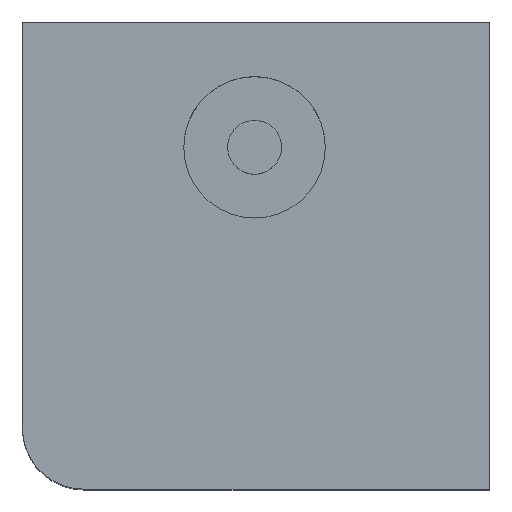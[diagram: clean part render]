
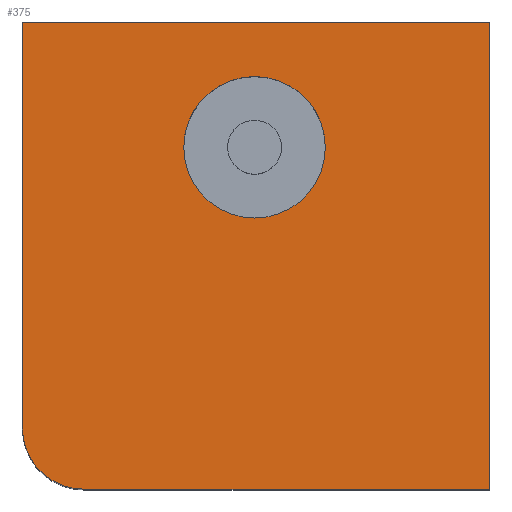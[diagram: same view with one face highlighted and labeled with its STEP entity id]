
A CAD part, top view. The second image highlights one B-rep face of the part: STEP entity #375.
In plain terms, the highlighted planar face has unit normal (0, 0, 1).
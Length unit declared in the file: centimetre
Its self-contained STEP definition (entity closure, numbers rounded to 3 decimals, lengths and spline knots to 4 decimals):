
#2 = VECTOR ( 'NONE', #145, 100. ) ;
#10 = CARTESIAN_POINT ( 'NONE',  ( 496.9067, 731.8457, 1000. ) ) ;
#16 = EDGE_CURVE ( 'NONE', #271, #181, #268, .T. ) ;
#20 = LINE ( 'NONE', #312, #2 ) ;
#29 = VERTEX_POINT ( 'NONE', #275 ) ;
#34 = CARTESIAN_POINT ( 'NONE',  ( 0., 1000., 1000. ) ) ;
#35 = ORIENTED_EDGE ( 'NONE', *, *, #257, .F. ) ;
#45 = DIRECTION ( 'NONE',  ( 0., 0., 1. ) ) ;
#46 = EDGE_LOOP ( 'NONE', ( #76, #164, #296, #281, #429 ) ) ;
#54 = EDGE_CURVE ( 'NONE', #364, #124, #241, .T. ) ;
#59 = AXIS2_PLACEMENT_3D ( 'NONE', #393, #158, #365 ) ;
#63 = CARTESIAN_POINT ( 'NONE',  ( 0., 0., 1000. ) ) ;
#72 = DIRECTION ( 'NONE',  ( 0., -1., 0. ) ) ;
#76 = ORIENTED_EDGE ( 'NONE', *, *, #388, .T. ) ;
#83 = CARTESIAN_POINT ( 'NONE',  ( 1000., 1000., 1000. ) ) ;
#97 = CARTESIAN_POINT ( 'NONE',  ( 496.9067, 731.8457, 1000. ) ) ;
#99 = VERTEX_POINT ( 'NONE', #233 ) ;
#111 = DIRECTION ( 'NONE',  ( 1., 0., 0. ) ) ;
#119 = VECTOR ( 'NONE', #369, 100. ) ;
#124 = VERTEX_POINT ( 'NONE', #262 ) ;
#145 = DIRECTION ( 'NONE',  ( 0., 1., 0. ) ) ;
#158 = DIRECTION ( 'NONE',  ( 0., 0., 1. ) ) ;
#164 = ORIENTED_EDGE ( 'NONE', *, *, #304, .T. ) ;
#175 = VERTEX_POINT ( 'NONE', #418 ) ;
#181 = VERTEX_POINT ( 'NONE', #258 ) ;
#183 = CARTESIAN_POINT ( 'NONE',  ( 648.4371, 731.8457, 1000. ) ) ;
#195 = CARTESIAN_POINT ( 'NONE',  ( 0., 1000., 1000. ) ) ;
#198 = PLANE ( 'NONE',  #59 ) ;
#224 = CIRCLE ( 'NONE', #276, 151.5304 ) ;
#233 = CARTESIAN_POINT ( 'NONE',  ( 131.1026, 0., 1000. ) ) ;
#238 = LINE ( 'NONE', #34, #368 ) ;
#239 = AXIS2_PLACEMENT_3D ( 'NONE', #97, #390, #294 ) ;
#241 = LINE ( 'NONE', #195, #345 ) ;
#253 = FACE_BOUND ( 'NONE', #355, .T. ) ;
#257 = EDGE_CURVE ( 'NONE', #181, #271, #224, .T. ) ;
#258 = CARTESIAN_POINT ( 'NONE',  ( 345.3762, 731.8457, 1000. ) ) ;
#259 = AXIS2_PLACEMENT_3D ( 'NONE', #315, #45, #346 ) ;
#262 = CARTESIAN_POINT ( 'NONE',  ( 0., 1000., 1000. ) ) ;
#268 = CIRCLE ( 'NONE', #239, 151.5304 ) ;
#271 = VERTEX_POINT ( 'NONE', #183 ) ;
#275 = CARTESIAN_POINT ( 'NONE',  ( 1000., 0., 1000. ) ) ;
#276 = AXIS2_PLACEMENT_3D ( 'NONE', #10, #284, #111 ) ;
#281 = ORIENTED_EDGE ( 'NONE', *, *, #319, .T. ) ;
#284 = DIRECTION ( 'NONE',  ( 0., 0., 1. ) ) ;
#294 = DIRECTION ( 'NONE',  ( 1., 0., 0. ) ) ;
#296 = ORIENTED_EDGE ( 'NONE', *, *, #378, .T. ) ;
#304 = EDGE_CURVE ( 'NONE', #175, #99, #405, .T. ) ;
#305 = LINE ( 'NONE', #63, #119 ) ;
#312 = CARTESIAN_POINT ( 'NONE',  ( 1000., 1000., 1000. ) ) ;
#315 = CARTESIAN_POINT ( 'NONE',  ( 131.1026, 131.1026, 1000. ) ) ;
#319 = EDGE_CURVE ( 'NONE', #29, #364, #20, .T. ) ;
#345 = VECTOR ( 'NONE', #399, 100. ) ;
#346 = DIRECTION ( 'NONE',  ( 1., 0., 0. ) ) ;
#355 = EDGE_LOOP ( 'NONE', ( #362, #35 ) ) ;
#362 = ORIENTED_EDGE ( 'NONE', *, *, #16, .F. ) ;
#364 = VERTEX_POINT ( 'NONE', #83 ) ;
#365 = DIRECTION ( 'NONE',  ( 1., 0., 0. ) ) ;
#368 = VECTOR ( 'NONE', #72, 100. ) ;
#369 = DIRECTION ( 'NONE',  ( 1., 0., 0. ) ) ;
#375 = ADVANCED_FACE ( 'NONE', ( #253, #396 ), #198, .T. ) ;
#378 = EDGE_CURVE ( 'NONE', #99, #29, #305, .T. ) ;
#388 = EDGE_CURVE ( 'NONE', #124, #175, #238, .T. ) ;
#390 = DIRECTION ( 'NONE',  ( 0., 0., 1. ) ) ;
#393 = CARTESIAN_POINT ( 'NONE',  ( 0., 0., 1000. ) ) ;
#396 = FACE_OUTER_BOUND ( 'NONE', #46, .T. ) ;
#399 = DIRECTION ( 'NONE',  ( -1., 0., 0. ) ) ;
#405 = CIRCLE ( 'NONE', #259, 131.1026 ) ;
#418 = CARTESIAN_POINT ( 'NONE',  ( 0., 131.1026, 1000. ) ) ;
#429 = ORIENTED_EDGE ( 'NONE', *, *, #54, .T. ) ;
